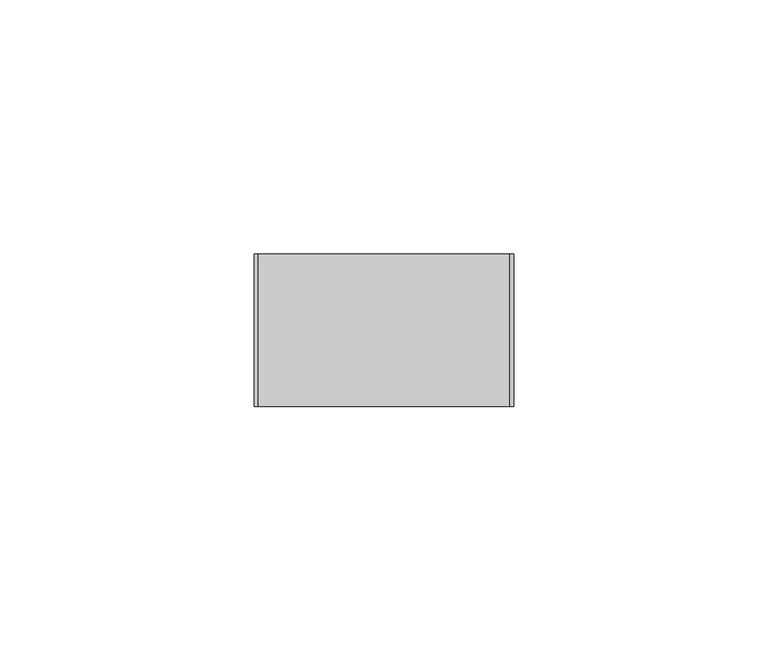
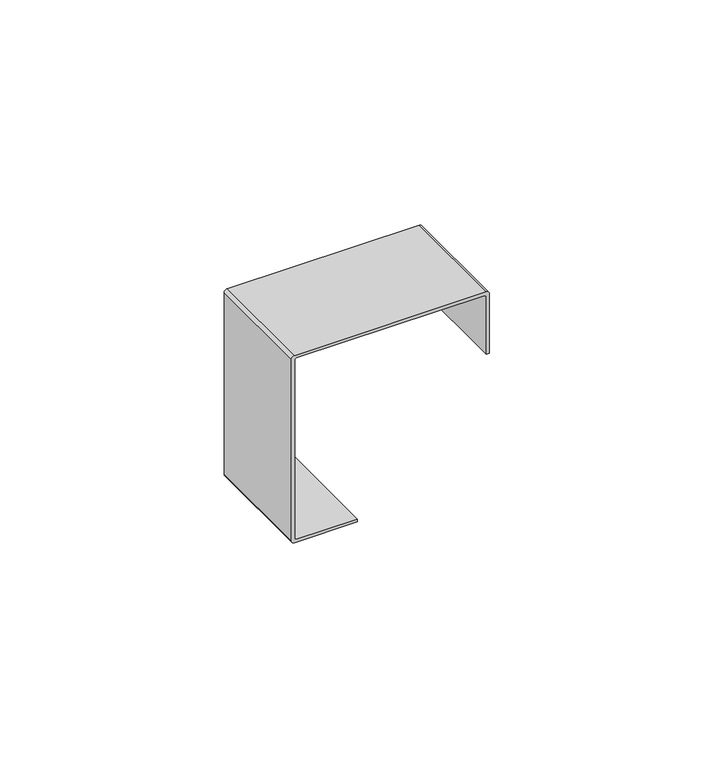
"""IFC4 building model written with IfcOpenShell, lengths in millimetres: proxy geometry, Cable_Tray_CoverRetainer_PTER 50x50_Basortray : Basortray PTER 50x50-i304."""

import ifcopenshell
import ifcopenshell.guid

model = None  # the IFC model being written
_history = None  # IfcOwnerHistory: only IFC2X3 demands one
_inside = {}  # id of a spatial element -> (the spatial element, [elements in it])
_under = {}  # id of a project, library or spatial element -> (it, [spatial elements below it])
_declared = {}  # id of a project -> (the project, [libraries it declares])
_typed = {}  # id of a type object -> (the type object, [elements of that type])
_made_of = {}  # id of a material, layer set ... -> (it, [elements and type objects made of it])


def new_model(schema):
    """Start an empty IFC model of exactly this schema.

    Asked for "IFC4X3", IfcOpenShell would pick the latest addendum, in which some entities
    have other attributes; the version numbers below select the first issue.
    IFC2X3 requires an IfcOwnerHistory on every rooted entity: one is made here for all.
    """
    global model, _history
    if schema == "IFC4X3":
        model = ifcopenshell.file(schema_version=(4, 3, 0, 0))
    else:
        model = ifcopenshell.file(schema=schema)
    _inside.clear()
    _under.clear()
    _declared.clear()
    _typed.clear()
    _made_of.clear()
    _history = None
    if model.schema == "IFC2X3":
        org = make("IfcOrganization", Name="unknown")
        user = make(
            "IfcPersonAndOrganization",
            ThePerson=make("IfcPerson", FamilyName="unknown"),
            TheOrganization=org,
        )
        app = make(
            "IfcApplication",
            ApplicationDeveloper=org,
            Version="unknown",
            ApplicationFullName="unknown",
            ApplicationIdentifier="unknown",
        )
        _history = make(
            "IfcOwnerHistory",
            OwningUser=user,
            OwningApplication=app,
            ChangeAction="ADDED",
            CreationDate=0,
        )
    return model


def make(cls, **values):
    """One entity of the class cls with the attributes given. An attribute that is None is left unset."""
    return model.create_entity(
        cls, **{name: value for name, value in values.items() if value is not None}
    )


def rooted(cls, **values):
    """An entity with a GlobalId (a new one), such as an element, a storey or a relation."""
    return make(cls, GlobalId=ifcopenshell.guid.new(), OwnerHistory=_history, **values)


def si_unit(unit_type, name, prefix=None):
    """IfcSIUnit, for example si_unit("LENGTHUNIT", "METRE", prefix="MILLI")."""
    return make("IfcSIUnit", UnitType=unit_type, Prefix=prefix, Name=name)


def assignment(units):
    """IfcUnitAssignment: the units of a project."""
    return None if units is None else make("IfcUnitAssignment", Units=units)


def point(xyz):
    """IfcCartesianPoint."""
    return None if xyz is None else make("IfcCartesianPoint", Coordinates=xyz)


def direction(xyz):
    """IfcDirection."""
    return None if xyz is None else make("IfcDirection", DirectionRatios=xyz)


def frame(location, z_axis=None, x_axis=None):
    """IfcAxis2Placement3D, a coordinate frame: its origin and axes. An axis left out is left unset."""
    return make(
        "IfcAxis2Placement3D",
        Location=point(location),
        Axis=direction(z_axis),
        RefDirection=direction(x_axis),
    )


def frame_2d(location, x_axis=None):
    """IfcAxis2Placement2D, a coordinate frame in the plane: its origin and x axis."""
    return make(
        "IfcAxis2Placement2D", Location=point(location), RefDirection=direction(x_axis)
    )


def origin():
    """The frame at (0, 0, 0) with its axes left unset."""
    return frame((0.0, 0.0, 0.0))


def place(relative_to, where):
    """IfcLocalPlacement: puts the frame where relative to a parent placement (None: the world)."""
    return make(
        "IfcLocalPlacement", PlacementRelTo=relative_to, RelativePlacement=where
    )


def context(
    kind, dimensions, precision=None, world=None, true_north=None, identifier=None
):
    """IfcGeometricRepresentationContext, for example the 3D "Model" context."""
    return make(
        "IfcGeometricRepresentationContext",
        ContextIdentifier=identifier,
        ContextType=kind,
        CoordinateSpaceDimension=dimensions,
        Precision=precision,
        WorldCoordinateSystem=world,
        TrueNorth=true_north,
    )


def project(units=None, contexts=None):
    """IfcProject with its units and contexts."""
    return rooted(
        "IfcProject",
        Name="project",
        RepresentationContexts=contexts,
        UnitsInContext=assignment(units),
    )


def spatial(cls, under=None, at=None, **own):
    """A site, building, storey or space (cls), placed at a placement, below another one or the project."""
    s = rooted(cls, ObjectPlacement=at, **own)
    if under is not None:
        _under.setdefault(under.id(), (under, []))[1].append(s)
    return s


def polyline(points):
    """IfcPolyline through the points."""
    return make("IfcPolyline", Points=[point(p) for p in points])


def circle_curve(where, radius):
    """IfcCircle in the frame where."""
    return make("IfcCircle", Position=where, Radius=radius)


def trimmed(basis, trim1, trim2, sense, master):
    """IfcTrimmedCurve: the piece of a basis curve between two trims."""
    return make(
        "IfcTrimmedCurve",
        BasisCurve=basis,
        Trim1=trim1,
        Trim2=trim2,
        SenseAgreement=sense,
        MasterRepresentation=master,
    )


def segment(curve, same_sense, transition):
    """IfcCompositeCurveSegment."""
    return make(
        "IfcCompositeCurveSegment",
        Transition=transition,
        SameSense=same_sense,
        ParentCurve=curve,
    )


def composite_curve(segments, self_intersect=None):
    """IfcCompositeCurve: segments joined end to end."""
    return make("IfcCompositeCurve", Segments=segments, SelfIntersect=self_intersect)


def outline(outer, holes=None, kind="AREA"):
    """IfcArbitraryClosedProfileDef: a profile drawn as a closed curve; with holes, ...WithVoids."""
    if holes is None:
        return make("IfcArbitraryClosedProfileDef", ProfileType=kind, OuterCurve=outer)
    return make(
        "IfcArbitraryProfileDefWithVoids",
        ProfileType=kind,
        OuterCurve=outer,
        InnerCurves=holes,
    )


def extrude(swept, where, along, depth):
    """IfcExtrudedAreaSolid: the profile swept, set in the frame where, extruded along a direction by depth."""
    return make(
        "IfcExtrudedAreaSolid",
        SweptArea=swept,
        Position=where,
        ExtrudedDirection=direction(along),
        Depth=depth,
    )


def shape(context_of_items, identifier, shape_type, items):
    """IfcShapeRepresentation: the items that make up one representation, for example the "Body"."""
    return make(
        "IfcShapeRepresentation",
        ContextOfItems=context_of_items,
        RepresentationIdentifier=identifier,
        RepresentationType=shape_type,
        Items=items,
    )


def source(mapping_origin, context_of_items, identifier, shape_type, items):
    """IfcRepresentationMap: a shape defined once, which mapped items show again and again."""
    return make(
        "IfcRepresentationMap",
        MappingOrigin=mapping_origin,
        MappedRepresentation=shape(context_of_items, identifier, shape_type, items),
    )


def transform(
    local_origin,
    x_axis=None,
    y_axis=None,
    z_axis=None,
    scale=None,
    scale2=None,
    scale3=None,
    uniform=True,
):
    """IfcCartesianTransformationOperator3D, or its non-uniform kind. x_axis, y_axis, z_axis: its Axis1, 2, 3."""
    if uniform:
        return make(
            "IfcCartesianTransformationOperator3D",
            Axis1=direction(x_axis),
            Axis2=direction(y_axis),
            LocalOrigin=point(local_origin),
            Scale=scale,
            Axis3=direction(z_axis),
        )
    return make(
        "IfcCartesianTransformationOperator3DnonUniform",
        Axis1=direction(x_axis),
        Axis2=direction(y_axis),
        LocalOrigin=point(local_origin),
        Scale=scale,
        Axis3=direction(z_axis),
        Scale2=scale2,
        Scale3=scale3,
    )


def mapped(mapping_source, mapping_target):
    """IfcMappedItem: shows the shape of a source again, moved by a transform."""
    return make(
        "IfcMappedItem", MappingSource=mapping_source, MappingTarget=mapping_target
    )


def made_of(thing, what):
    """Note that an element or type object is made of a material, layer set ...; save() writes the relation."""
    if what is not None:
        _made_of.setdefault(what.id(), (what, []))[1].append(thing)
    return thing


def element(
    cls,
    number,
    at=None,
    inside=None,
    cuts=None,
    type_object=None,
    material=None,
    context=None,
    identifier="Body",
    shape_type=None,
    held_by="IfcProductDefinitionShape",
    body=None,
    shapes=None,
    **own,
):
    """One element of the class cls, such as IfcWall. Its Tag is "e" and its number.

    at: its placement. inside: the storey or other place that contains it. cuts: it is an
    opening in that element (IfcRelVoidsElement). A single representation is given by context,
    identifier, shape_type and body (its items); several are given by shapes. held_by: the class
    of the entity that holds the representations. save() writes the other relations.
    """
    e = rooted(cls, Tag="e%d" % number, ObjectPlacement=at, **own)
    if body is not None:
        shapes = [shape(context, identifier, shape_type, body)]
    if shapes is not None:
        e.Representation = make(held_by, Representations=shapes)
    if inside is not None:
        _inside.setdefault(inside.id(), (inside, []))[1].append(e)
    if cuts is not None:
        rooted(
            "IfcRelVoidsElement", RelatingBuildingElement=cuts, RelatedOpeningElement=e
        )
    if type_object is not None:
        _typed.setdefault(type_object.id(), (type_object, []))[1].append(e)
    return made_of(e, material)


def aggregate(whole, parts):
    """IfcRelAggregates: a whole, such as a stair, and the parts it consists of."""
    return rooted("IfcRelAggregates", RelatingObject=whole, RelatedObjects=parts)


def save(model, path):
    """Write the relations noted so far, then the file.

    IfcRelAggregates (storeys below a building ...), IfcRelContainedInSpatialStructure (elements
    in a storey), IfcRelDefinesByType, IfcRelAssociatesMaterial and IfcRelDeclares: one each for
    every whole, place, type object, material and project.
    """
    for whole, parts in _under.values():
        aggregate(whole, parts)
    for where, things in _inside.values():
        rooted(
            "IfcRelContainedInSpatialStructure",
            RelatedElements=things,
            RelatingStructure=where,
        )
    for kind, things in _typed.values():
        rooted("IfcRelDefinesByType", RelatedObjects=things, RelatingType=kind)
    for what, things in _made_of.values():
        rooted("IfcRelAssociatesMaterial", RelatedObjects=things, RelatingMaterial=what)
    for by, libraries in _declared.values():
        rooted("IfcRelDeclares", RelatingContext=by, RelatedDefinitions=libraries)
    model.write(path)


def generic_models_b537d021(model_context):
    return source(origin(), model_context, "Body", "SweptSolid", [
        extrude(outline(composite_curve([segment(polyline([(0.0, 0.0), (-49.4, 0.0)]), True, "CONTINUOUS"), segment(trimmed(circle_curve(frame_2d((-49.4, 0.8)), 0.8), [point((-49.4, 0.0))], [point((-50.2, 0.8))], False, "CARTESIAN"), True, "CONTINUOUS"), segment(polyline([(-50.2, 0.8), (-50.2, 17.0), (-49.4, 17.0), (-49.4, 1.31)]), True, "CONTINUOUS"), segment(trimmed(circle_curve(frame_2d((-48.89, 1.31)), 0.51), [point((-49.4, 1.31))], [point((-48.89, 0.8))], True, "CARTESIAN"), True, "CONTINUOUS"), segment(polyline([(-48.89, 0.8), (-0.51, 0.8)]), True, "CONTINUOUS"), segment(trimmed(circle_curve(frame_2d((-0.51, 1.31)), 0.51), [point((-0.51, 0.8))], [point((0.0, 1.31))], True, "CARTESIAN"), True, "CONTINUOUS"), segment(polyline([(0.0, 1.31), (0.0, 49.69)]), True, "CONTINUOUS"), segment(trimmed(circle_curve(frame_2d((-0.51, 49.69)), 0.51), [point((0.0, 49.69))], [point((-0.51, 50.2))], True, "CARTESIAN"), True, "CONTINUOUS"), segment(polyline([(-0.51, 50.2), (-16.2, 50.2), (-16.2, 51.0), (0.0, 51.0)]), True, "CONTINUOUS"), segment(trimmed(circle_curve(frame_2d((0.0, 50.2)), 0.8), [point((0.0, 51.0))], [point((0.8, 50.2))], False, "CARTESIAN"), True, "CONTINUOUS"), segment(polyline([(0.8, 50.2), (0.8, 0.8)]), True, "CONTINUOUS"), segment(trimmed(circle_curve(frame_2d((0.0, 0.8)), 0.8), [point((0.8, 0.8))], [point((0.0, 0.0))], False, "CARTESIAN"), True, "CONTINUOUS")], self_intersect=False)), frame((0.0, 0.0, 0.0), z_axis=(0.0, 1.0, 0.0), x_axis=(0.0, 0.0, 1.0)), (0.0, 0.0, 1.0), 30.0),
    ])


if __name__ == "__main__":
    model = new_model("IFC4")
    model_context = context("Model", 3, world=origin())
    ifc_project = project(units=[si_unit("LENGTHUNIT", "METRE", prefix="MILLI")], contexts=[model_context])
    site = spatial("IfcSite", under=ifc_project)
    building = spatial("IfcBuilding", under=site)
    placement = place(None, origin())
    generic_models_shape = generic_models_b537d021(model_context)
    element("IfcBuildingElementProxy", 1, Name="Cable_Tray_CoverRetainer_PTER 50x50_Basortray : Basortray PTER 50x50-i304", ObjectType="Cable_Tray_CoverRetainer_PTER 50x50_Basortray : Basortray PTER 50x50-i304", at=placement, inside=building, context=model_context, shape_type="MappedRepresentation", body=[
        mapped(generic_models_shape, transform((0.0, 0.0, 0.0), x_axis=(1.0, 0.0, 0.0), y_axis=(0.0, 1.0, 0.0), z_axis=(0.0, 0.0, 1.0))),
    ])
    save(model, "model.ifc")
